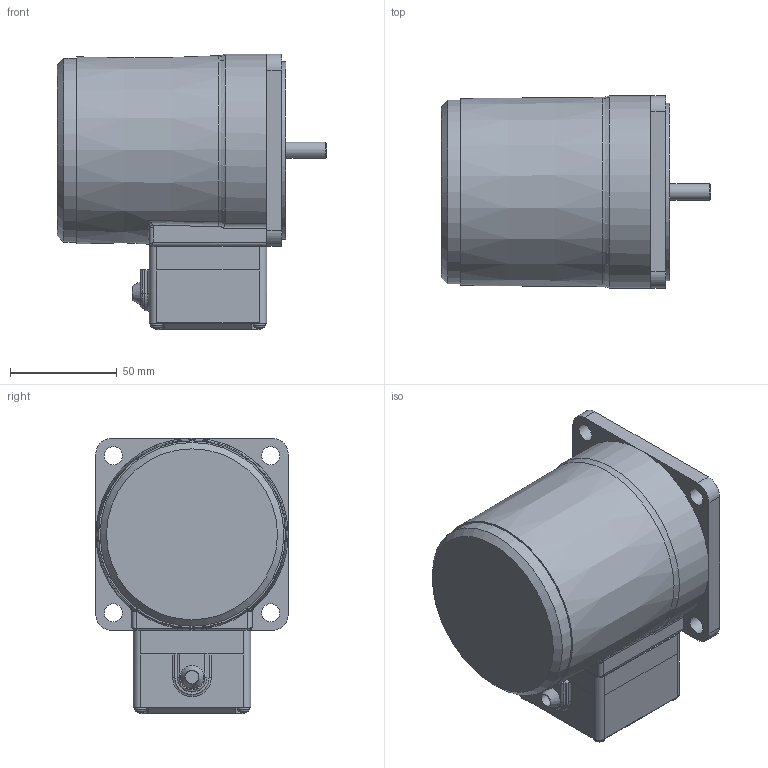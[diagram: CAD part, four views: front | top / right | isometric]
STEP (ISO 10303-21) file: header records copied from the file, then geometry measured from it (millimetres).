
FILE_DESCRIPTION(/* description */ (''),/* implementation_level */ '2;1');
FILE_NAME(/* name */ 'E:\도면작업\2016\0704) 미주향 SG 도면\3D MOTOR\TERMINAL BOX TYPE\INDUCTION TERMINAL BOX\SG9I40G_-T1.stp',/* time_stamp */ '2017-01-23T18:32:21+09:00',/* author */ ('jy-jung'),/* organization */ (''),/* preprocessor_version */ 'ST-DEVELOPER v15.6',/* originating_system */ 'Autodesk Inventor 2015',/* authorisation */ '');
FILE_SCHEMA (('AUTOMOTIVE_DESIGN { 1 0 10303 214 3 1 1 }'));
Length unit declared in the file: millimetre
Products named in the file (1): 부품4
Bounding box: 126.1 x 90 x 129 mm (x, y, z)
Volume: 776488.3 mm3; surface area: 58149 mm2
Topology: 1 solids, 2 shells, 249 faces, 661 edges, 423 vertices
Faces by surface type: plane 108, cylinder 51, cone 44, torus 24, bspline 18, sphere 4
Full cylindrical faces by diameter (mm): 7.62 x1, 8 x1, 8.5 x4, 40 x1, 83 x1, 86 x1
Entity records: 8583 total; most frequent: CARTESIAN_POINT 2488, ORIENTED_EDGE 1244, DIRECTION 1217, EDGE_CURVE 622, AXIS2_PLACEMENT_3D 473, VERTEX_POINT 413, EDGE_LOOP 293, LINE 271
